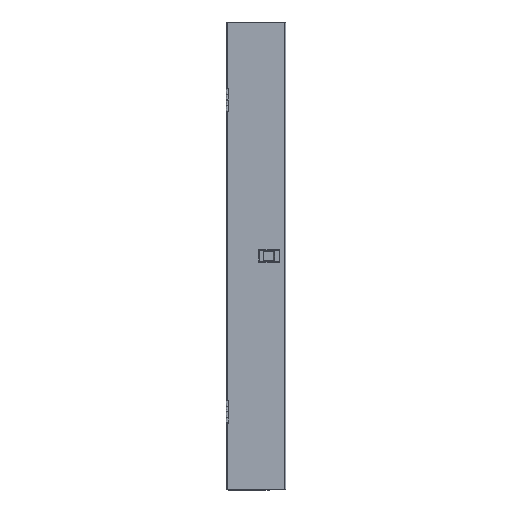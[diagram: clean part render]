
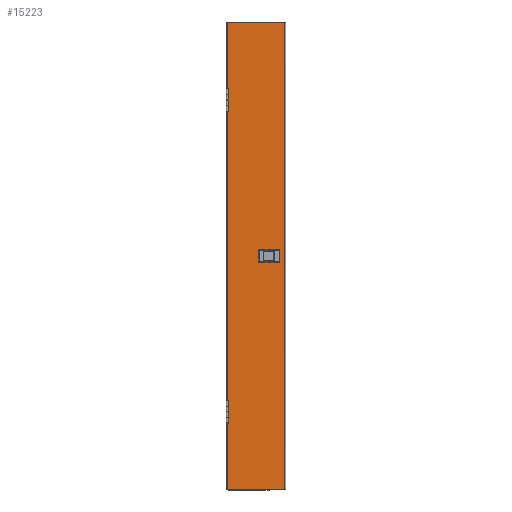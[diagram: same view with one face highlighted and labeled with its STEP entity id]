
A CAD part, top view. The second image highlights one B-rep face of the part: STEP entity #15223.
In plain terms, the highlighted free-form (B-spline) face has degree [1, 1] with [2, 2] control points.
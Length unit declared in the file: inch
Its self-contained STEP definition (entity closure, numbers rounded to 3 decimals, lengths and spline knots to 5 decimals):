
#14610=CARTESIAN_POINT('V2',(71.27319,89.53927,
   6.74298));
#14611=VERTEX_POINT('V2',#14610);
#14624=CARTESIAN_POINT('V3',(71.27319,90.53927,
   6.74298));
#14625=VERTEX_POINT('V3',#14624);
#14631=CARTESIAN_POINT('E2',(71.27319,90.53927,
   6.74298));
#14632=CARTESIAN_POINT('E2',(71.27319,89.53927,
   6.74298));
#14633=QUASI_UNIFORM_CURVE('E2',1,(#14631,#14632),.POLYLINE_FORM.,
   .F.,.U.);
#14634=EDGE_CURVE('E2',#14625,#14611,#14633,.T.);
#14652=CARTESIAN_POINT('V4',(72.77319,90.53927,
   6.74298));
#14653=VERTEX_POINT('V4',#14652);
#14659=CARTESIAN_POINT('E3',(72.77319,90.53927,
   6.74298));
#14660=CARTESIAN_POINT('E3',(71.27319,90.53927,
   6.74298));
#14661=QUASI_UNIFORM_CURVE('E3',1,(#14659,#14660),.POLYLINE_FORM.,
   .F.,.U.);
#14662=EDGE_CURVE('E3',#14653,#14625,#14661,.T.);
#14680=CARTESIAN_POINT('V1',(72.77319,89.53927,
   6.74298));
#14681=VERTEX_POINT('V1',#14680);
#14687=CARTESIAN_POINT('E4',(72.77319,89.53927,
   6.74298));
#14688=CARTESIAN_POINT('E4',(72.77319,90.53927,
   6.74298));
#14689=QUASI_UNIFORM_CURVE('E4',1,(#14687,#14688),.POLYLINE_FORM.,
   .F.,.U.);
#14690=EDGE_CURVE('E4',#14681,#14653,#14689,.T.);
#14707=CARTESIAN_POINT('E1',(71.27319,89.53927,
   6.74298));
#14708=CARTESIAN_POINT('E1',(72.77319,89.53927,
   6.74298));
#14709=QUASI_UNIFORM_CURVE('E1',1,(#14707,#14708),.POLYLINE_FORM.,
   .F.,.U.);
#14710=EDGE_CURVE('E1',#14611,#14681,#14709,.T.);
#14720=CARTESIAN_POINT('V6',(75.62519,69.02727,
   6.74298));
#14721=VERTEX_POINT('V6',#14720);
#14736=CARTESIAN_POINT('V7',(75.62519,75.02727,
   6.74298));
#14737=VERTEX_POINT('V7',#14736);
#14743=CARTESIAN_POINT('E6',(75.62519,75.02727,
   6.74298));
#14744=CARTESIAN_POINT('E6',(75.62519,69.02727,
   6.74298));
#14745=QUASI_UNIFORM_CURVE('E6',1,(#14743,#14744),.POLYLINE_FORM.,
   .F.,.U.);
#14746=EDGE_CURVE('E6',#14737,#14721,#14745,.T.);
#14764=CARTESIAN_POINT('V8',(75.56519,75.02727,
   6.74298));
#14765=VERTEX_POINT('V8',#14764);
#14771=CARTESIAN_POINT('E7',(75.56519,75.02727,
   6.74298));
#14772=CARTESIAN_POINT('E7',(75.62519,75.02727,
   6.74298));
#14773=QUASI_UNIFORM_CURVE('E7',1,(#14771,#14772),.POLYLINE_FORM.,
   .F.,.U.);
#14774=EDGE_CURVE('E7',#14765,#14737,#14773,.T.);
#14792=CARTESIAN_POINT('V9',(75.56519,77.04227,
   6.74298));
#14793=VERTEX_POINT('V9',#14792);
#14799=CARTESIAN_POINT('E8',(75.56519,77.04227,
   6.74298));
#14800=CARTESIAN_POINT('E8',(75.56519,75.02727,
   6.74298));
#14801=QUASI_UNIFORM_CURVE('E8',1,(#14799,#14800),.POLYLINE_FORM.,
   .F.,.U.);
#14802=EDGE_CURVE('E8',#14793,#14765,#14801,.T.);
#14820=CARTESIAN_POINT('V10',(75.62519,77.04227,
   6.74298));
#14821=VERTEX_POINT('V10',#14820);
#14827=CARTESIAN_POINT('E9',(75.62519,77.04227,
   6.74298));
#14828=CARTESIAN_POINT('E9',(75.56519,77.04227,
   6.74298));
#14829=QUASI_UNIFORM_CURVE('E9',1,(#14827,#14828),.POLYLINE_FORM.,
   .F.,.U.);
#14830=EDGE_CURVE('E9',#14821,#14793,#14829,.T.);
#14848=CARTESIAN_POINT('V11',(75.62519,103.03627,
   6.74298));
#14849=VERTEX_POINT('V11',#14848);
#14855=CARTESIAN_POINT('E10',(75.62519,103.03627,
   6.74298));
#14856=CARTESIAN_POINT('E10',(75.62519,77.04227,
   6.74298));
#14857=QUASI_UNIFORM_CURVE('E10',1,(#14855,#14856),.POLYLINE_FORM.,
   .F.,.U.);
#14858=EDGE_CURVE('E10',#14849,#14821,#14857,.T.);
#14876=CARTESIAN_POINT('V12',(75.56519,103.03627,
   6.74298));
#14877=VERTEX_POINT('V12',#14876);
#14883=CARTESIAN_POINT('E11',(75.56519,103.03627,
   6.74298));
#14884=CARTESIAN_POINT('E11',(75.62519,103.03627,
   6.74298));
#14885=QUASI_UNIFORM_CURVE('E11',1,(#14883,#14884),.POLYLINE_FORM.,
   .F.,.U.);
#14886=EDGE_CURVE('E11',#14877,#14849,#14885,.T.);
#14904=CARTESIAN_POINT('V13',(75.56519,105.05127,
   6.74298));
#14905=VERTEX_POINT('V13',#14904);
#14911=CARTESIAN_POINT('E12',(75.56519,105.05127,
   6.74298));
#14912=CARTESIAN_POINT('E12',(75.56519,103.03627,
   6.74298));
#14913=QUASI_UNIFORM_CURVE('E12',1,(#14911,#14912),.POLYLINE_FORM.,
   .F.,.U.);
#14914=EDGE_CURVE('E12',#14905,#14877,#14913,.T.);
#14932=CARTESIAN_POINT('V14',(75.62519,105.05127,
   6.74298));
#14933=VERTEX_POINT('V14',#14932);
#14939=CARTESIAN_POINT('E13',(75.62519,105.05127,
   6.74298));
#14940=CARTESIAN_POINT('E13',(75.56519,105.05127,
   6.74298));
#14941=QUASI_UNIFORM_CURVE('E13',1,(#14939,#14940),.POLYLINE_FORM.,
   .F.,.U.);
#14942=EDGE_CURVE('E13',#14933,#14905,#14941,.T.);
#14960=CARTESIAN_POINT('V15',(75.62519,111.05127,
   6.74298));
#14961=VERTEX_POINT('V15',#14960);
#14967=CARTESIAN_POINT('E14',(75.62519,111.05127,
   6.74298));
#14968=CARTESIAN_POINT('E14',(75.62519,105.05127,
   6.74298));
#14969=QUASI_UNIFORM_CURVE('E14',1,(#14967,#14968),.POLYLINE_FORM.,
   .F.,.U.);
#14970=EDGE_CURVE('E14',#14961,#14933,#14969,.T.);
#15164=CARTESIAN_POINT('V5',(70.49019,69.02727,
   6.74298));
#15165=VERTEX_POINT('V5',#15164);
#15166=CARTESIAN_POINT('E5',(75.62519,69.02727,
   6.74298));
#15167=CARTESIAN_POINT('E5',(70.49019,69.02727,
   6.74298));
#15168=QUASI_UNIFORM_CURVE('E5',1,(#15166,#15167),.POLYLINE_FORM.,
   .F.,.U.);
#15169=EDGE_CURVE('E5',#14721,#15165,#15168,.T.);
#15188=CARTESIAN_POINT('F2',(75.62637,111.05245,
   6.74298));
#15189=CARTESIAN_POINT('F2',(75.62637,69.02609,
   6.74298));
#15190=CARTESIAN_POINT('F2',(70.48901,111.05245,
   6.74298));
#15191=CARTESIAN_POINT('F2',(70.48901,69.02609,
   6.74298));
#15192=B_SPLINE_SURFACE_WITH_KNOTS('F2',1,1,((#15188,#15190),(
   #15189,#15191)),.PLANE_SURF.,.F.,.F.,.U.,(2,2),(2,2),(0.0,
   8.18053),(0.0,1.0),.UNSPECIFIED.);
#15193=ORIENTED_EDGE('F16',*,*,#14746,.F.);
#15194=ORIENTED_EDGE('F17',*,*,#14774,.F.);
#15195=ORIENTED_EDGE('F18',*,*,#14802,.F.);
#15196=ORIENTED_EDGE('F19',*,*,#14830,.F.);
#15197=ORIENTED_EDGE('F20',*,*,#14858,.F.);
#15198=ORIENTED_EDGE('F21',*,*,#14886,.F.);
#15199=ORIENTED_EDGE('F22',*,*,#14914,.F.);
#15200=ORIENTED_EDGE('F23',*,*,#14942,.F.);
#15201=ORIENTED_EDGE('F24',*,*,#14970,.F.);
#15202=CARTESIAN_POINT('V16',(70.49019,111.05127,
   6.74298));
#15203=VERTEX_POINT('V16',#15202);
#15204=CARTESIAN_POINT('E15',(70.49019,111.05127,
   6.74298));
#15205=CARTESIAN_POINT('E15',(75.62519,111.05127,
   6.74298));
#15206=QUASI_UNIFORM_CURVE('E15',1,(#15204,#15205),.POLYLINE_FORM.,
   .F.,.U.);
#15207=EDGE_CURVE('E15',#15203,#14961,#15206,.T.);
#15208=ORIENTED_EDGE('E15',*,*,#15207,.F.);
#15209=CARTESIAN_POINT('E16',(70.49019,69.02727,
   6.74298));
#15210=CARTESIAN_POINT('E16',(70.49019,111.05127,
   6.74298));
#15211=QUASI_UNIFORM_CURVE('E16',1,(#15209,#15210),.POLYLINE_FORM.,
   .F.,.U.);
#15212=EDGE_CURVE('E16',#15165,#15203,#15211,.T.);
#15213=ORIENTED_EDGE('E16',*,*,#15212,.F.);
#15214=ORIENTED_EDGE('E5',*,*,#15169,.F.);
#15215=EDGE_LOOP('F2',(#15193,#15194,#15195,#15196,#15197,#15198,
   #15199,#15200,#15201,#15208,#15213,#15214));
#15216=FACE_OUTER_BOUND('F2',#15215,.T.);
#15217=ORIENTED_EDGE('F9',*,*,#14634,.F.);
#15218=ORIENTED_EDGE('F10',*,*,#14662,.F.);
#15219=ORIENTED_EDGE('F11',*,*,#14690,.F.);
#15220=ORIENTED_EDGE('F12',*,*,#14710,.F.);
#15221=EDGE_LOOP('F2',(#15217,#15218,#15219,#15220));
#15222=FACE_BOUND('F2',#15221,.T.);
#15223=ADVANCED_FACE('F2',(#15216,#15222),#15192,.F.);
